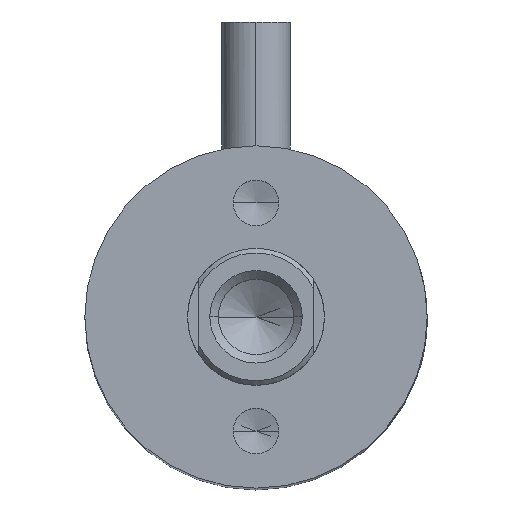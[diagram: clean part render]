
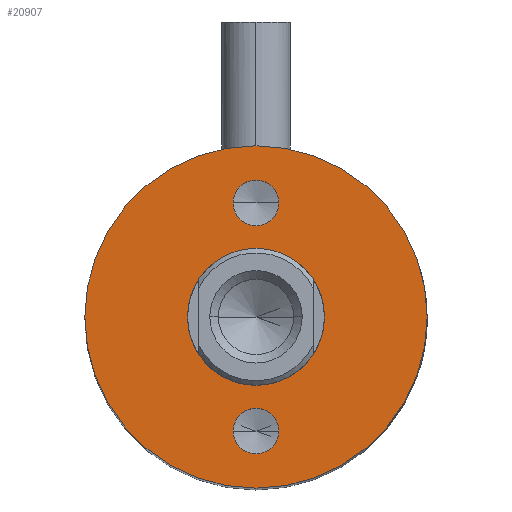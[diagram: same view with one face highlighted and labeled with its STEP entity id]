
A CAD part, top view. The second image highlights one B-rep face of the part: STEP entity #20907.
In plain terms, the highlighted planar face has unit normal (0, 0, 1).
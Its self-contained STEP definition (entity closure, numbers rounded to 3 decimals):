
#958 = DIRECTION ( 'NONE',  ( 1., 0., 0. ) ) ;
#1868 = VERTEX_POINT ( 'NONE', #7788 ) ;
#2053 = VERTEX_POINT ( 'NONE', #32159 ) ;
#2359 = CARTESIAN_POINT ( 'NONE',  ( 0., 0., 46.5 ) ) ;
#2802 = PLANE ( 'NONE',  #36831 ) ;
#4355 = EDGE_CURVE ( 'NONE', #28875, #7358, #7691, .T. ) ;
#4469 = EDGE_CURVE ( 'NONE', #1868, #2053, #31033, .T. ) ;
#5025 = CARTESIAN_POINT ( 'NONE',  ( -1., -5., 46.5 ) ) ;
#5030 = CIRCLE ( 'NONE', #12196, 1. ) ;
#5134 = CARTESIAN_POINT ( 'NONE',  ( 0., 0., 46.5 ) ) ;
#5360 = CARTESIAN_POINT ( 'NONE',  ( -3., 0., 46.5 ) ) ;
#6367 = DIRECTION ( 'NONE',  ( 1., 0., 0. ) ) ;
#7358 = VERTEX_POINT ( 'NONE', #5025 ) ;
#7691 = CIRCLE ( 'NONE', #22579, 1. ) ;
#7788 = CARTESIAN_POINT ( 'NONE',  ( 1., 5., 46.5 ) ) ;
#8305 = EDGE_CURVE ( 'NONE', #34079, #8748, #25597, .T. ) ;
#8308 = CARTESIAN_POINT ( 'NONE',  ( 0., 0., 46.5 ) ) ;
#8748 = VERTEX_POINT ( 'NONE', #30339 ) ;
#8754 = CIRCLE ( 'NONE', #38091, 3. ) ;
#9731 = AXIS2_PLACEMENT_3D ( 'NONE', #24996, #36861, #13917 ) ;
#9926 = CARTESIAN_POINT ( 'NONE',  ( 3., 0., 46.5 ) ) ;
#12196 = AXIS2_PLACEMENT_3D ( 'NONE', #29611, #40468, #25594 ) ;
#12383 = ORIENTED_EDGE ( 'NONE', *, *, #27925, .F. ) ;
#13917 = DIRECTION ( 'NONE',  ( 1., 0., 0. ) ) ;
#13921 = ORIENTED_EDGE ( 'NONE', *, *, #47950, .T. ) ;
#14105 = ORIENTED_EDGE ( 'NONE', *, *, #16582, .F. ) ;
#15165 = DIRECTION ( 'NONE',  ( 1., 0., 0. ) ) ;
#16582 = EDGE_CURVE ( 'NONE', #28061, #19468, #8754, .T. ) ;
#18847 = CARTESIAN_POINT ( 'NONE',  ( 0., 0., 46.5 ) ) ;
#19464 = DIRECTION ( 'NONE',  ( 1., 0., 0. ) ) ;
#19468 = VERTEX_POINT ( 'NONE', #5360 ) ;
#19669 = DIRECTION ( 'NONE',  ( 1., 0., 0. ) ) ;
#20907 = ADVANCED_FACE ( 'NONE', ( #30861, #39221, #43387, #27240 ), #2802, .T. ) ;
#22303 = DIRECTION ( 'NONE',  ( 0., 0., 1. ) ) ;
#22579 = AXIS2_PLACEMENT_3D ( 'NONE', #49212, #22303, #49046 ) ;
#22878 = ORIENTED_EDGE ( 'NONE', *, *, #25295, .F. ) ;
#24167 = CIRCLE ( 'NONE', #30331, 1. ) ;
#24996 = CARTESIAN_POINT ( 'NONE',  ( 0., 5., 46.5 ) ) ;
#25295 = EDGE_CURVE ( 'NONE', #2053, #1868, #5030, .T. ) ;
#25377 = CARTESIAN_POINT ( 'NONE',  ( 7.5, 0., 46.5 ) ) ;
#25594 = DIRECTION ( 'NONE',  ( 1., 0., 0. ) ) ;
#25597 = CIRCLE ( 'NONE', #34768, 7.5 ) ;
#26006 = EDGE_LOOP ( 'NONE', ( #13921, #49524 ) ) ;
#26138 = ORIENTED_EDGE ( 'NONE', *, *, #4469, .F. ) ;
#27240 = FACE_OUTER_BOUND ( 'NONE', #26006, .T. ) ;
#27925 = EDGE_CURVE ( 'NONE', #7358, #28875, #24167, .T. ) ;
#28061 = VERTEX_POINT ( 'NONE', #9926 ) ;
#28636 = ORIENTED_EDGE ( 'NONE', *, *, #4355, .F. ) ;
#28875 = VERTEX_POINT ( 'NONE', #44903 ) ;
#29611 = CARTESIAN_POINT ( 'NONE',  ( 0., 5., 46.5 ) ) ;
#30331 = AXIS2_PLACEMENT_3D ( 'NONE', #42379, #34684, #19464 ) ;
#30339 = CARTESIAN_POINT ( 'NONE',  ( -7.5, 0., 46.5 ) ) ;
#30861 = FACE_BOUND ( 'NONE', #32097, .T. ) ;
#31033 = CIRCLE ( 'NONE', #9731, 1. ) ;
#31952 = CIRCLE ( 'NONE', #49427, 3. ) ;
#32097 = EDGE_LOOP ( 'NONE', ( #28636, #12383 ) ) ;
#32159 = CARTESIAN_POINT ( 'NONE',  ( -1., 5., 46.5 ) ) ;
#33420 = CARTESIAN_POINT ( 'NONE',  ( 0., 0., 46.5 ) ) ;
#33579 = DIRECTION ( 'NONE',  ( 0., 0., 1. ) ) ;
#34079 = VERTEX_POINT ( 'NONE', #25377 ) ;
#34553 = DIRECTION ( 'NONE',  ( 1., 0., 0. ) ) ;
#34684 = DIRECTION ( 'NONE',  ( 0., 0., 1. ) ) ;
#34768 = AXIS2_PLACEMENT_3D ( 'NONE', #18847, #38080, #34553 ) ;
#35537 = DIRECTION ( 'NONE',  ( 0., 0., 1. ) ) ;
#36831 = AXIS2_PLACEMENT_3D ( 'NONE', #33420, #33579, #15165 ) ;
#36861 = DIRECTION ( 'NONE',  ( 0., 0., 1. ) ) ;
#38080 = DIRECTION ( 'NONE',  ( 0., 0., 1. ) ) ;
#38091 = AXIS2_PLACEMENT_3D ( 'NONE', #8308, #35537, #19669 ) ;
#39221 = FACE_BOUND ( 'NONE', #43729, .T. ) ;
#40468 = DIRECTION ( 'NONE',  ( 0., 0., 1. ) ) ;
#41089 = AXIS2_PLACEMENT_3D ( 'NONE', #2359, #41164, #6367 ) ;
#41164 = DIRECTION ( 'NONE',  ( 0., 0., 1. ) ) ;
#42379 = CARTESIAN_POINT ( 'NONE',  ( 0., -5., 46.5 ) ) ;
#42708 = CIRCLE ( 'NONE', #41089, 7.5 ) ;
#43115 = DIRECTION ( 'NONE',  ( 0., 0., 1. ) ) ;
#43387 = FACE_BOUND ( 'NONE', #44327, .T. ) ;
#43729 = EDGE_LOOP ( 'NONE', ( #26138, #22878 ) ) ;
#44327 = EDGE_LOOP ( 'NONE', ( #47668, #14105 ) ) ;
#44903 = CARTESIAN_POINT ( 'NONE',  ( 1., -5., 46.5 ) ) ;
#47668 = ORIENTED_EDGE ( 'NONE', *, *, #48139, .F. ) ;
#47950 = EDGE_CURVE ( 'NONE', #8748, #34079, #42708, .T. ) ;
#48139 = EDGE_CURVE ( 'NONE', #19468, #28061, #31952, .T. ) ;
#49046 = DIRECTION ( 'NONE',  ( 1., 0., 0. ) ) ;
#49212 = CARTESIAN_POINT ( 'NONE',  ( 0., -5., 46.5 ) ) ;
#49427 = AXIS2_PLACEMENT_3D ( 'NONE', #5134, #43115, #958 ) ;
#49524 = ORIENTED_EDGE ( 'NONE', *, *, #8305, .T. ) ;
